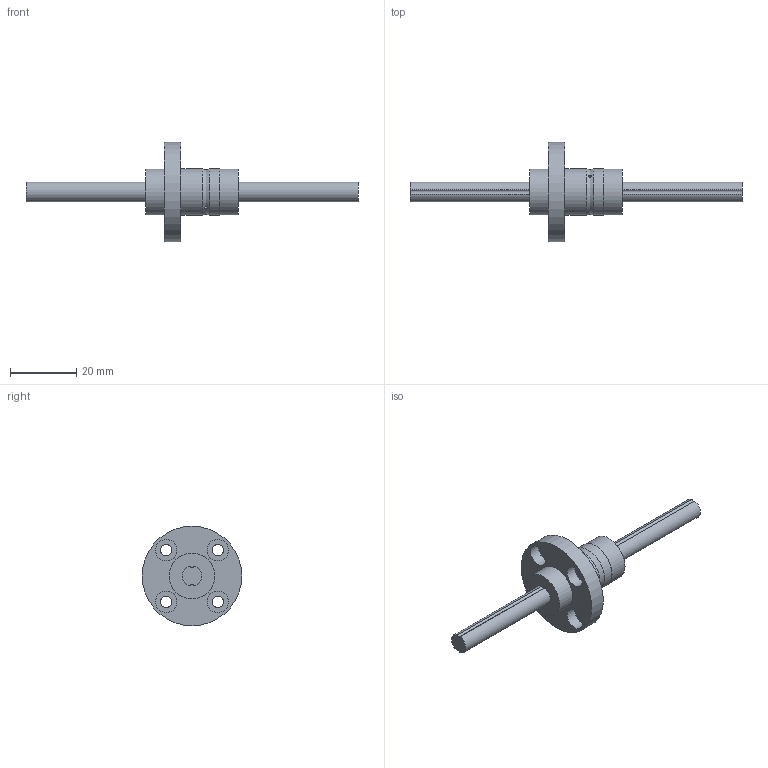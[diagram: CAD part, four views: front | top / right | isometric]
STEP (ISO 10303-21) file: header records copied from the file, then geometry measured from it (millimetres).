
FILE_DESCRIPTION((''),'2;1');
FILE_NAME('C:\Documents and Settings\土屋\My Documents\土屋移動用フォルダ\製品 (図面)\カタログ用3D\ボールスプライン\BSPF\BSPF6.stp','2015-02-23T13:30:09',('y'),(''),'Autodesk Inventor 11','Autodesk Inventor 11','');
FILE_SCHEMA(('AUTOMOTIVE_DESIGN { 1 0 10303 214 1 1 1 1 }'));
Length unit declared in the file: millimetre
Products named in the file (3): BSPF6; BSP6軸; BSPF6ナット
Assembly tree (2 placements, depth 2):
  BSPF6
    BSP6軸
    BSPF6ナット
Bounding box: 100 x 30 x 30 mm (x, y, z)
Volume: 8495.6 mm3; surface area: 5635 mm2
Topology: 2 solids, 2 shells, 37 faces, 76 edges, 52 vertices
Faces by surface type: bspline 15, cylinder 14, plane 8
Full cylindrical faces by diameter (mm): 1 x1, 13.8 x2, 14 x2, 30 x1
Entity records: 1233 total; most frequent: CARTESIAN_POINT 466, DIRECTION 150, ORIENTED_EDGE 108, EDGE_LOOP 72, AXIS2_PLACEMENT_3D 71, EDGE_CURVE 54, VERTEX_POINT 46, CIRCLE 44
